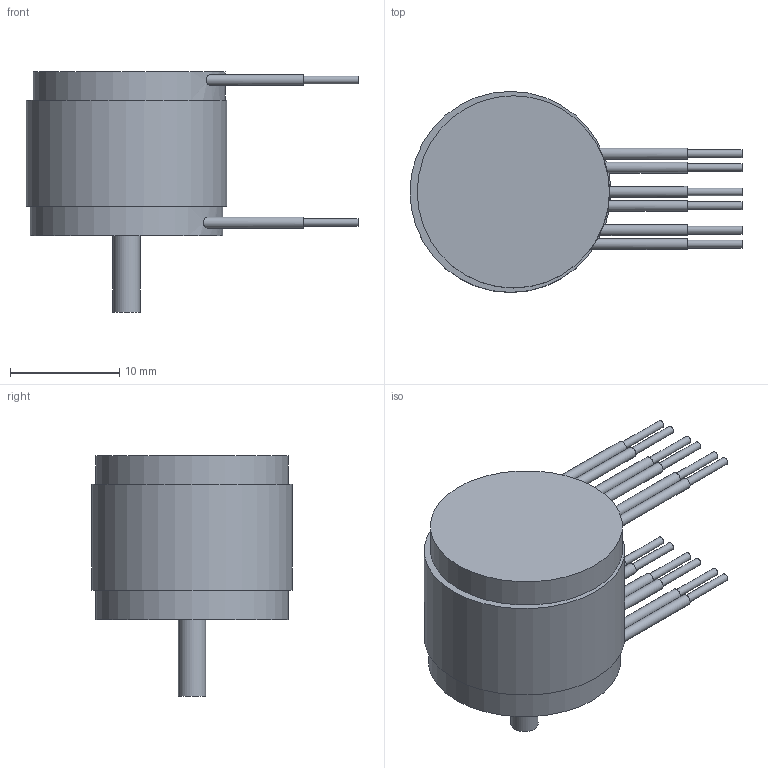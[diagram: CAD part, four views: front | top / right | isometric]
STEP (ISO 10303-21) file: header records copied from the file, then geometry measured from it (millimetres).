
FILE_DESCRIPTION(('OME-T'),'2;1');
FILE_NAME('C:\Users\user\Documents\Inventor\配布用外径データ\配布用STEP\OME-T.stp','2019-05-20T17:52:27',('Nemicon Corp.'),('Nemicon Corp.'),'Autodesk Inventor 2011','Autodesk Inventor 2011','');
FILE_SCHEMA(('AUTOMOTIVE_DESIGN { 1 0 10303 214 1 1 1 1 }'));
Length unit declared in the file: millimetre
Products named in the file (1): OME-T
Bounding box: 30.4 x 18.4 x 22 mm (x, y, z)
Volume: 3978.5 mm3; surface area: 1913.6 mm2
Topology: 1 solids, 1 shells, 61 faces, 110 edges, 77 vertices
Faces by surface type: cylinder 30, plane 29, cone 2
Full cylindrical faces by diameter (mm): 0.7 x12, 0.96 x3, 1 x9, 1.567 x2, 2.5 x1, 17.6 x2, 18.4 x1
Entity records: 1600 total; most frequent: CARTESIAN_POINT 578, DIRECTION 220, ORIENTED_EDGE 120, EDGE_LOOP 120, AXIS2_PLACEMENT_3D 110, FACE_OUTER_BOUND 61, ADVANCED_FACE 61, VERTEX_POINT 60
